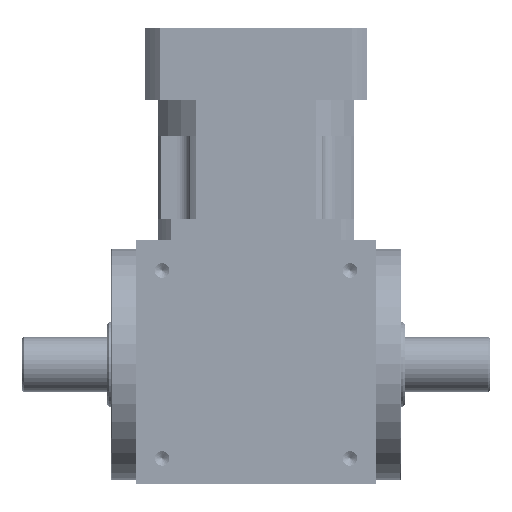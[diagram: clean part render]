
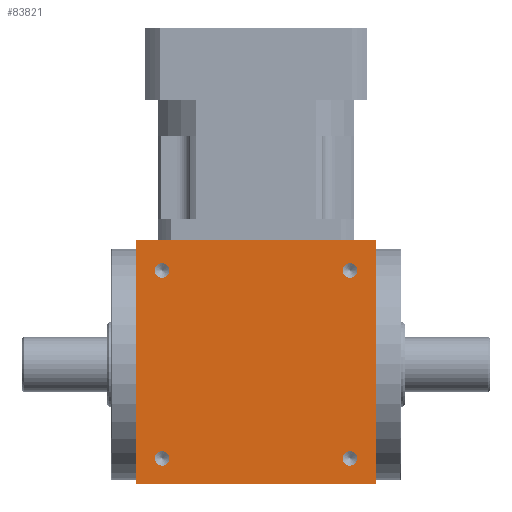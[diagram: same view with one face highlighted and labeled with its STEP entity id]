
A CAD part, front view. The second image highlights one B-rep face of the part: STEP entity #83821.
In plain terms, the highlighted planar face has unit normal (0, -1, 0).
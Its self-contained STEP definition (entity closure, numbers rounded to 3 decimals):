
#291 = CARTESIAN_POINT ( 'NONE',  ( -79.129, -33.244, -50.75 ) ) ;
#866 = FACE_BOUND ( 'NONE', #21962, .T. ) ;
#1949 = CIRCLE ( 'NONE', #67788, 4.25 ) ;
#4297 = CIRCLE ( 'NONE', #92681, 4.25 ) ;
#5352 = EDGE_LOOP ( 'NONE', ( #33382, #112791 ) ) ;
#5908 = CIRCLE ( 'NONE', #75574, 4.25 ) ;
#6747 = EDGE_CURVE ( 'NONE', #107034, #74340, #74849, .T. ) ;
#8097 = AXIS2_PLACEMENT_3D ( 'NONE', #90426, #65042, #19716 ) ;
#9291 = VERTEX_POINT ( 'NONE', #35359 ) ;
#9301 = CARTESIAN_POINT ( 'NONE',  ( -79.129, -33.244, -55. ) ) ;
#11165 = EDGE_CURVE ( 'NONE', #78062, #41108, #4297, .T. ) ;
#11921 = CARTESIAN_POINT ( 'NONE',  ( -79.129, -33.244, 50.75 ) ) ;
#14899 = AXIS2_PLACEMENT_3D ( 'NONE', #16596, #106727, #78479 ) ;
#16596 = CARTESIAN_POINT ( 'NONE',  ( 30.871, -33.244, -55. ) ) ;
#17074 = DIRECTION ( 'NONE',  ( 0., 0., -1. ) ) ;
#17482 = CARTESIAN_POINT ( 'NONE',  ( -94.129, -33.244, 73. ) ) ;
#19105 = EDGE_CURVE ( 'NONE', #74340, #107034, #5908, .T. ) ;
#19573 = CARTESIAN_POINT ( 'NONE',  ( 30.871, -33.244, -50.75 ) ) ;
#19716 = DIRECTION ( 'NONE',  ( 0., 0., 1. ) ) ;
#21165 = CARTESIAN_POINT ( 'NONE',  ( 30.871, -33.244, 55. ) ) ;
#21758 = DIRECTION ( 'NONE',  ( 0., -1., 0. ) ) ;
#21962 = EDGE_LOOP ( 'NONE', ( #64255, #85109 ) ) ;
#22545 = LINE ( 'NONE', #59600, #84583 ) ;
#23071 = DIRECTION ( 'NONE',  ( 0., 0., -1. ) ) ;
#25757 = EDGE_CURVE ( 'NONE', #31296, #29795, #22545, .T. ) ;
#25994 = LINE ( 'NONE', #43673, #29965 ) ;
#26677 = AXIS2_PLACEMENT_3D ( 'NONE', #21165, #21758, #39425 ) ;
#27407 = FACE_BOUND ( 'NONE', #68278, .T. ) ;
#27693 = CARTESIAN_POINT ( 'NONE',  ( -79.129, -33.244, -59.25 ) ) ;
#28520 = AXIS2_PLACEMENT_3D ( 'NONE', #57234, #92603, #23071 ) ;
#29433 = DIRECTION ( 'NONE',  ( 1., 0., 0. ) ) ;
#29795 = VERTEX_POINT ( 'NONE', #90665 ) ;
#29965 = VECTOR ( 'NONE', #79056, 1000. ) ;
#30012 = VECTOR ( 'NONE', #78283, 1000. ) ;
#31296 = VERTEX_POINT ( 'NONE', #17482 ) ;
#33382 = ORIENTED_EDGE ( 'NONE', *, *, #97525, .F. ) ;
#33479 = LINE ( 'NONE', #95322, #30012 ) ;
#35359 = CARTESIAN_POINT ( 'NONE',  ( -94.129, -33.244, -70. ) ) ;
#37420 = EDGE_LOOP ( 'NONE', ( #111325, #92016 ) ) ;
#39425 = DIRECTION ( 'NONE',  ( 0., 0., -1. ) ) ;
#39778 = EDGE_LOOP ( 'NONE', ( #98914, #70532, #83686, #60757 ) ) ;
#40562 = EDGE_CURVE ( 'NONE', #31296, #9291, #33479, .T. ) ;
#41108 = VERTEX_POINT ( 'NONE', #291 ) ;
#42676 = DIRECTION ( 'NONE',  ( 0., -1., 0. ) ) ;
#43459 = VECTOR ( 'NONE', #29433, 1000. ) ;
#43588 = CIRCLE ( 'NONE', #26677, 4.25 ) ;
#43673 = CARTESIAN_POINT ( 'NONE',  ( 45.871, -33.244, 70. ) ) ;
#44521 = CARTESIAN_POINT ( 'NONE',  ( 30.871, -33.244, 59.25 ) ) ;
#45232 = DIRECTION ( 'NONE',  ( 0., -1., 0. ) ) ;
#46543 = ORIENTED_EDGE ( 'NONE', *, *, #11165, .F. ) ;
#47350 = DIRECTION ( 'NONE',  ( 0., -1., 0. ) ) ;
#47387 = PLANE ( 'NONE',  #8097 ) ;
#47925 = ORIENTED_EDGE ( 'NONE', *, *, #87779, .F. ) ;
#47969 = FACE_BOUND ( 'NONE', #37420, .T. ) ;
#49914 = VERTEX_POINT ( 'NONE', #69344 ) ;
#54463 = FACE_BOUND ( 'NONE', #5352, .T. ) ;
#57234 = CARTESIAN_POINT ( 'NONE',  ( 30.871, -33.244, 55. ) ) ;
#59600 = CARTESIAN_POINT ( 'NONE',  ( -94.129, -33.244, 73. ) ) ;
#59601 = AXIS2_PLACEMENT_3D ( 'NONE', #9301, #45232, #81190 ) ;
#59745 = AXIS2_PLACEMENT_3D ( 'NONE', #88374, #68942, #17074 ) ;
#60757 = ORIENTED_EDGE ( 'NONE', *, *, #40562, .T. ) ;
#62625 = VERTEX_POINT ( 'NONE', #92690 ) ;
#64247 = CIRCLE ( 'NONE', #28520, 4.25 ) ;
#64255 = ORIENTED_EDGE ( 'NONE', *, *, #19105, .F. ) ;
#64760 = LINE ( 'NONE', #82467, #43459 ) ;
#65042 = DIRECTION ( 'NONE',  ( 0., 1., 0. ) ) ;
#67788 = AXIS2_PLACEMENT_3D ( 'NONE', #75732, #42676, #87468 ) ;
#68278 = EDGE_LOOP ( 'NONE', ( #46543, #47925 ) ) ;
#68694 = DIRECTION ( 'NONE',  ( 0., 0., -1. ) ) ;
#68942 = DIRECTION ( 'NONE',  ( 0., -1., 0. ) ) ;
#69344 = CARTESIAN_POINT ( 'NONE',  ( 30.871, -33.244, -59.25 ) ) ;
#70532 = ORIENTED_EDGE ( 'NONE', *, *, #71087, .F. ) ;
#71042 = EDGE_CURVE ( 'NONE', #111486, #49914, #75154, .T. ) ;
#71087 = EDGE_CURVE ( 'NONE', #29795, #79666, #25994, .T. ) ;
#71763 = EDGE_CURVE ( 'NONE', #49914, #111486, #1949, .T. ) ;
#74340 = VERTEX_POINT ( 'NONE', #11921 ) ;
#74849 = CIRCLE ( 'NONE', #59745, 4.25 ) ;
#75154 = CIRCLE ( 'NONE', #14899, 4.25 ) ;
#75574 = AXIS2_PLACEMENT_3D ( 'NONE', #114067, #96933, #68694 ) ;
#75732 = CARTESIAN_POINT ( 'NONE',  ( 30.871, -33.244, -55. ) ) ;
#78062 = VERTEX_POINT ( 'NONE', #27693 ) ;
#78110 = EDGE_CURVE ( 'NONE', #9291, #79666, #64760, .T. ) ;
#78283 = DIRECTION ( 'NONE',  ( 0., 0., -1. ) ) ;
#78479 = DIRECTION ( 'NONE',  ( 0., 0., -1. ) ) ;
#78823 = VERTEX_POINT ( 'NONE', #44521 ) ;
#79056 = DIRECTION ( 'NONE',  ( 0., 0., -1. ) ) ;
#79666 = VERTEX_POINT ( 'NONE', #99443 ) ;
#81190 = DIRECTION ( 'NONE',  ( 0., 0., -1. ) ) ;
#82467 = CARTESIAN_POINT ( 'NONE',  ( -94.129, -33.244, -70. ) ) ;
#83686 = ORIENTED_EDGE ( 'NONE', *, *, #25757, .F. ) ;
#83821 = ADVANCED_FACE ( 'NONE', ( #866, #54463, #47969, #27407, #100433 ), #47387, .F. ) ;
#84583 = VECTOR ( 'NONE', #95538, 1000. ) ;
#85109 = ORIENTED_EDGE ( 'NONE', *, *, #6747, .F. ) ;
#87468 = DIRECTION ( 'NONE',  ( 0., 0., -1. ) ) ;
#87779 = EDGE_CURVE ( 'NONE', #41108, #78062, #87904, .T. ) ;
#87904 = CIRCLE ( 'NONE', #59601, 4.25 ) ;
#88374 = CARTESIAN_POINT ( 'NONE',  ( -79.129, -33.244, 55. ) ) ;
#90426 = CARTESIAN_POINT ( 'NONE',  ( -94.129, -33.244, 70. ) ) ;
#90665 = CARTESIAN_POINT ( 'NONE',  ( 45.871, -33.244, 73. ) ) ;
#92016 = ORIENTED_EDGE ( 'NONE', *, *, #71042, .F. ) ;
#92603 = DIRECTION ( 'NONE',  ( 0., -1., 0. ) ) ;
#92681 = AXIS2_PLACEMENT_3D ( 'NONE', #102162, #47350, #93871 ) ;
#92690 = CARTESIAN_POINT ( 'NONE',  ( 30.871, -33.244, 50.75 ) ) ;
#93059 = CARTESIAN_POINT ( 'NONE',  ( -79.129, -33.244, 59.25 ) ) ;
#93871 = DIRECTION ( 'NONE',  ( 0., 0., -1. ) ) ;
#95322 = CARTESIAN_POINT ( 'NONE',  ( -94.129, -33.244, 70. ) ) ;
#95538 = DIRECTION ( 'NONE',  ( 1., 0., 0. ) ) ;
#96933 = DIRECTION ( 'NONE',  ( 0., -1., 0. ) ) ;
#97525 = EDGE_CURVE ( 'NONE', #62625, #78823, #64247, .T. ) ;
#98914 = ORIENTED_EDGE ( 'NONE', *, *, #78110, .T. ) ;
#99443 = CARTESIAN_POINT ( 'NONE',  ( 45.871, -33.244, -70. ) ) ;
#100433 = FACE_OUTER_BOUND ( 'NONE', #39778, .T. ) ;
#102162 = CARTESIAN_POINT ( 'NONE',  ( -79.129, -33.244, -55. ) ) ;
#106727 = DIRECTION ( 'NONE',  ( 0., -1., 0. ) ) ;
#107034 = VERTEX_POINT ( 'NONE', #93059 ) ;
#111325 = ORIENTED_EDGE ( 'NONE', *, *, #71763, .F. ) ;
#111486 = VERTEX_POINT ( 'NONE', #19573 ) ;
#112791 = ORIENTED_EDGE ( 'NONE', *, *, #115494, .F. ) ;
#114067 = CARTESIAN_POINT ( 'NONE',  ( -79.129, -33.244, 55. ) ) ;
#115494 = EDGE_CURVE ( 'NONE', #78823, #62625, #43588, .T. ) ;
